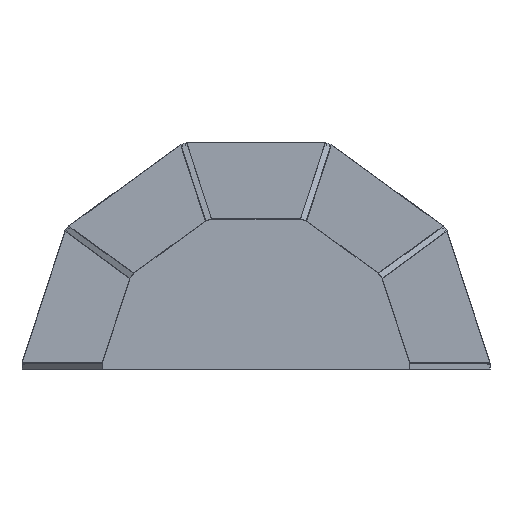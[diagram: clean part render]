
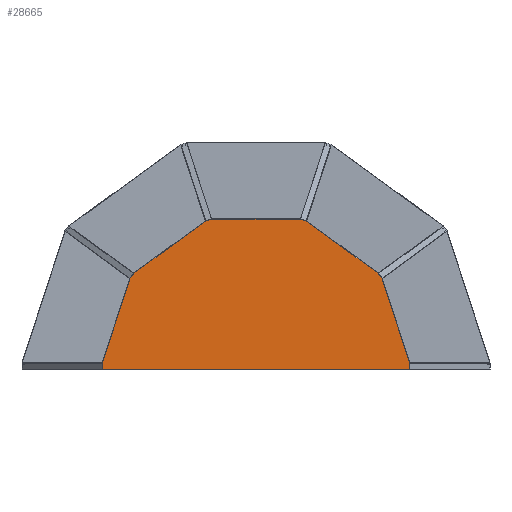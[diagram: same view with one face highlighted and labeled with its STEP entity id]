
A CAD part, front view. The second image highlights one B-rep face of the part: STEP entity #28665.
In plain terms, the highlighted planar face has unit normal (0, -1, 0).
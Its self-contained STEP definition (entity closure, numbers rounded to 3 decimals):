
#252 = LINE ( 'NONE', #7941, #19309 ) ;
#852 = ORIENTED_EDGE ( 'NONE', *, *, #28800, .T. ) ;
#1762 = LINE ( 'NONE', #9298, #6188 ) ;
#2118 = CARTESIAN_POINT ( 'NONE',  ( 351.725, 0., 0. ) ) ;
#2291 = DIRECTION ( 'NONE',  ( 0., 0., 1. ) ) ;
#3034 = VERTEX_POINT ( 'NONE', #4141 ) ;
#4141 = CARTESIAN_POINT ( 'NONE',  ( -288.894, 0., 208.261 ) ) ;
#4356 = CARTESIAN_POINT ( 'NONE',  ( -288.118, 0., 209.33 ) ) ;
#4622 = CARTESIAN_POINT ( 'NONE',  ( 101.662, 0., 344.293 ) ) ;
#5031 = EDGE_CURVE ( 'NONE', #16110, #24803, #23120, .T. ) ;
#6067 = VERTEX_POINT ( 'NONE', #31819 ) ;
#6107 = EDGE_CURVE ( 'NONE', #30645, #10238, #16703, .T. ) ;
#6188 = VECTOR ( 'NONE', #20310, 1000. ) ;
#6287 = LINE ( 'NONE', #13819, #25340 ) ;
#6331 = DIRECTION ( 'NONE',  ( 0., 0., 1. ) ) ;
#6431 = LINE ( 'NONE', #16762, #15750 ) ;
#6653 = DIRECTION ( 'NONE',  ( 1., 0., 0. ) ) ;
#7257 = AXIS2_PLACEMENT_3D ( 'NONE', #19629, #8953, #6331 ) ;
#7863 = DIRECTION ( 'NONE',  ( 0., 0., -1. ) ) ;
#7941 = CARTESIAN_POINT ( 'NONE',  ( 110.893, 0., 341.294 ) ) ;
#8953 = DIRECTION ( 'NONE',  ( 0., 1., 0. ) ) ;
#9298 = CARTESIAN_POINT ( 'NONE',  ( 201.528, 0., 277.38 ) ) ;
#9376 = VERTEX_POINT ( 'NONE', #21846 ) ;
#9802 = CARTESIAN_POINT ( 'NONE',  ( 115.715, 0., 339.727 ) ) ;
#10238 = VERTEX_POINT ( 'NONE', #27144 ) ;
#10411 = ORIENTED_EDGE ( 'NONE', *, *, #14945, .T. ) ;
#10807 = CARTESIAN_POINT ( 'NONE',  ( 288.118, 0., 209.33 ) ) ;
#12435 = LINE ( 'NONE', #23094, #14195 ) ;
#12881 = EDGE_CURVE ( 'NONE', #31601, #32643, #24258, .T. ) ;
#13633 = ORIENTED_EDGE ( 'NONE', *, *, #32978, .T. ) ;
#13819 = CARTESIAN_POINT ( 'NONE',  ( -201.528, 0., 277.38 ) ) ;
#14049 = CARTESIAN_POINT ( 'NONE',  ( 0., 0., 344.293 ) ) ;
#14195 = VECTOR ( 'NONE', #7863, 1000. ) ;
#14276 = VECTOR ( 'NONE', #19374, 1000. ) ;
#14372 = LINE ( 'NONE', #20130, #21765 ) ;
#14720 = EDGE_LOOP ( 'NONE', ( #852, #24431, #21615, #29258, #23031, #23552, #13633, #10411, #15919, #24896, #21991, #31101 ) ) ;
#14945 = EDGE_CURVE ( 'NONE', #31409, #22879, #252, .T. ) ;
#15241 = DIRECTION ( 'NONE',  ( -0.309, 0., -0.951 ) ) ;
#15750 = VECTOR ( 'NONE', #30397, 1000. ) ;
#15802 = EDGE_CURVE ( 'NONE', #22879, #30645, #32923, .T. ) ;
#15919 = ORIENTED_EDGE ( 'NONE', *, *, #15802, .T. ) ;
#16110 = VERTEX_POINT ( 'NONE', #21626 ) ;
#16237 = VECTOR ( 'NONE', #15241, 1000. ) ;
#16472 = DIRECTION ( 'NONE',  ( -0.809, 0., -0.588 ) ) ;
#16703 = LINE ( 'NONE', #19827, #21921 ) ;
#16762 = CARTESIAN_POINT ( 'NONE',  ( 322.513, 0., 104.791 ) ) ;
#16863 = DIRECTION ( 'NONE',  ( -1., 0., 0. ) ) ;
#17101 = EDGE_CURVE ( 'NONE', #9376, #3034, #25354, .T. ) ;
#19309 = VECTOR ( 'NONE', #21406, 1000. ) ;
#19374 = DIRECTION ( 'NONE',  ( -0.588, 0., 0.809 ) ) ;
#19389 = VECTOR ( 'NONE', #2291, 1000. ) ;
#19629 = CARTESIAN_POINT ( 'NONE',  ( 0., 0., 0. ) ) ;
#19779 = CARTESIAN_POINT ( 'NONE',  ( 351.725, 0., 14.888 ) ) ;
#19827 = CARTESIAN_POINT ( 'NONE',  ( -110.893, 0., 341.294 ) ) ;
#20096 = DIRECTION ( 'NONE',  ( -0.588, 0., -0.809 ) ) ;
#20130 = CARTESIAN_POINT ( 'NONE',  ( 0., 0., 0.707 ) ) ;
#20310 = DIRECTION ( 'NONE',  ( -0.809, 0., 0.588 ) ) ;
#20501 = EDGE_CURVE ( 'NONE', #22292, #6067, #12435, .T. ) ;
#20649 = EDGE_CURVE ( 'NONE', #10238, #9376, #6287, .T. ) ;
#20999 = CARTESIAN_POINT ( 'NONE',  ( -351.725, 0., 14.888 ) ) ;
#21406 = DIRECTION ( 'NONE',  ( -0.951, 0., 0.309 ) ) ;
#21615 = ORIENTED_EDGE ( 'NONE', *, *, #29808, .T. ) ;
#21626 = CARTESIAN_POINT ( 'NONE',  ( 351.725, 0., 0.707 ) ) ;
#21765 = VECTOR ( 'NONE', #6653, 1000. ) ;
#21846 = CARTESIAN_POINT ( 'NONE',  ( -280.209, 0., 220.215 ) ) ;
#21921 = VECTOR ( 'NONE', #28000, 1000. ) ;
#21991 = ORIENTED_EDGE ( 'NONE', *, *, #20649, .T. ) ;
#22292 = VERTEX_POINT ( 'NONE', #20999 ) ;
#22879 = VERTEX_POINT ( 'NONE', #4622 ) ;
#23031 = ORIENTED_EDGE ( 'NONE', *, *, #23945, .T. ) ;
#23094 = CARTESIAN_POINT ( 'NONE',  ( -351.725, 0., 0. ) ) ;
#23120 = LINE ( 'NONE', #2118, #19389 ) ;
#23552 = ORIENTED_EDGE ( 'NONE', *, *, #12881, .T. ) ;
#23921 = CARTESIAN_POINT ( 'NONE',  ( 288.894, 0., 208.261 ) ) ;
#23945 = EDGE_CURVE ( 'NONE', #24803, #31601, #6431, .T. ) ;
#24258 = LINE ( 'NONE', #10807, #14276 ) ;
#24431 = ORIENTED_EDGE ( 'NONE', *, *, #20501, .T. ) ;
#24803 = VERTEX_POINT ( 'NONE', #19779 ) ;
#24896 = ORIENTED_EDGE ( 'NONE', *, *, #6107, .T. ) ;
#25340 = VECTOR ( 'NONE', #16472, 1000. ) ;
#25354 = LINE ( 'NONE', #4356, #25671 ) ;
#25671 = VECTOR ( 'NONE', #20096, 1000. ) ;
#25819 = CARTESIAN_POINT ( 'NONE',  ( -101.662, 0., 344.293 ) ) ;
#27144 = CARTESIAN_POINT ( 'NONE',  ( -115.715, 0., 339.727 ) ) ;
#27585 = VECTOR ( 'NONE', #16863, 1000. ) ;
#28000 = DIRECTION ( 'NONE',  ( -0.951, 0., -0.309 ) ) ;
#28165 = PLANE ( 'NONE',  #7257 ) ;
#28245 = CARTESIAN_POINT ( 'NONE',  ( 280.209, 0., 220.215 ) ) ;
#28507 = CARTESIAN_POINT ( 'NONE',  ( -322.513, 0., 104.791 ) ) ;
#28665 = ADVANCED_FACE ( 'NONE', ( #30291 ), #28165, .F. ) ;
#28800 = EDGE_CURVE ( 'NONE', #3034, #22292, #31664, .T. ) ;
#29258 = ORIENTED_EDGE ( 'NONE', *, *, #5031, .T. ) ;
#29808 = EDGE_CURVE ( 'NONE', #6067, #16110, #14372, .T. ) ;
#30291 = FACE_OUTER_BOUND ( 'NONE', #14720, .T. ) ;
#30397 = DIRECTION ( 'NONE',  ( -0.309, 0., 0.951 ) ) ;
#30645 = VERTEX_POINT ( 'NONE', #25819 ) ;
#31101 = ORIENTED_EDGE ( 'NONE', *, *, #17101, .T. ) ;
#31409 = VERTEX_POINT ( 'NONE', #9802 ) ;
#31601 = VERTEX_POINT ( 'NONE', #23921 ) ;
#31664 = LINE ( 'NONE', #28507, #16237 ) ;
#31819 = CARTESIAN_POINT ( 'NONE',  ( -351.725, 0., 0.707 ) ) ;
#32643 = VERTEX_POINT ( 'NONE', #28245 ) ;
#32923 = LINE ( 'NONE', #14049, #27585 ) ;
#32978 = EDGE_CURVE ( 'NONE', #32643, #31409, #1762, .T. ) ;
